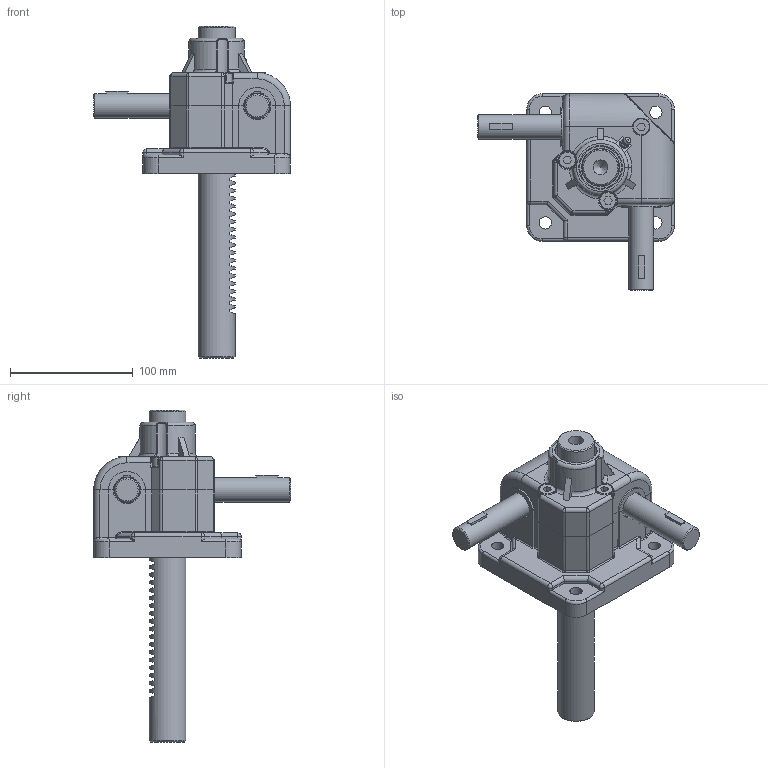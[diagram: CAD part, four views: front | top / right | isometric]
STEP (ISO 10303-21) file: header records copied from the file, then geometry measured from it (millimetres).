
FILE_DESCRIPTION(('STEP AP203'),'1');
FILE_NAME('SP1-900-150ST.stp','2016-08-05T05:34:16',(' '),(' '),'Spatial InterOp 3D',' ',' ');
FILE_SCHEMA(('CONFIG_CONTROL_DESIGN'));
Length unit declared in the file: millimetre
Products named in the file (22): SP1-900-150ST; Rack Gear(SP-900); Body-Part; Nipple; Gear Box(Upper); Body_stand by; Gear Box(Lower); RJ05-4SCJ-610X600-100ST_CAP; LABEL-B.1; ___; 파트18; __ 
Assembly tree (25 placements, depth 6):
  SP1-900-150ST
    Rack Gear(SP-900)
    Body-Part
      (unnamed)  x2
      (unnamed)  x3
      Nipple
      (unnamed)  x2
      Gear Box(Upper)
        Body_stand by
        Body_stand by
        Body_stand by
        Body_stand by
      Gear Box(Lower)
        Body_stand by
        Body_stand by
        Body_stand by
        Body_stand by
      __ 
        ___
          RJ05-4SCJ-610X600-100ST_CAP
            LABEL-B.1
          파트18
Bounding box: 160 x 160.22 x 270 mm (x, y, z)
Volume: 248956.8 mm3; surface area: 179982.8 mm2
Topology: 15 solids, 692 shells, 2556 faces, 8899 edges, 7012 vertices
Faces by surface type: plane 1932, cylinder 470, torus 51, bspline 46, sphere 25, cone 16, extrusion 9, revolution 7
Full cylindrical faces by diameter (mm): 3.113 x1, 6 x1, 6.6 x1, 8 x3, 12 x1, 14 x3, 20 x2, 30 x1
Entity records: 104594 total; most frequent: CARTESIAN_POINT 30522, DIRECTION 14216, ORIENTED_EDGE 13872, EDGE_CURVE 8646, VERTEX_POINT 6894, VECTOR 6545, LINE 6536, AXIS2_PLACEMENT_3D 3832
